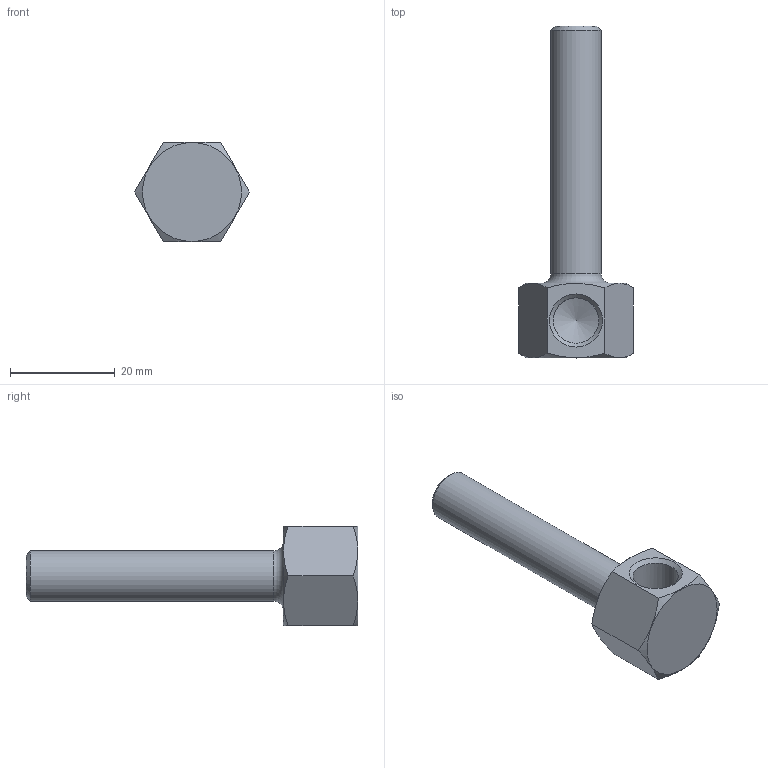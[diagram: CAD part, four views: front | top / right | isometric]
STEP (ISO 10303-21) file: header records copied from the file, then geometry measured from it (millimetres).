
FILE_DESCRIPTION(/* description */ (''),/* implementation_level */ '2;1');
FILE_NAME(/* name */ 'C:/Users/drich/Desktop/18B-2-1_2 v1.step',/* time_stamp */ '2019-12-29T15:20:32-06:00',/* author */ (''),/* organization */ (''),/* preprocessor_version */ 'ST-DEVELOPER v18',/* originating_system */ 'Autodesk Translation Framework v8.12.0.6',/* authorisation */ '');
FILE_SCHEMA (('AUTOMOTIVE_DESIGN { 1 0 10303 214 3 1 1 }'));
Length unit declared in the file: inch
Products named in the file (1): 18B-2-1_2
Bounding box: 22 x 63.5 x 19.05 mm (x, y, z)
Volume: 5607.4 mm3; surface area: 4313.2 mm2
Topology: 1 solids, 1 shells, 19 faces, 48 edges, 31 vertices
Faces by surface type: plane 9, cone 6, cylinder 3, torus 1
Full cylindrical faces by diameter (mm): 6.35 x1, 8.707 x1, 9.621 x1
Entity records: 633 total; most frequent: CARTESIAN_POINT 159, ORIENTED_EDGE 94, DIRECTION 89, EDGE_CURVE 47, AXIS2_PLACEMENT_3D 37, VERTEX_POINT 31, EDGE_LOOP 22, FACE_OUTER_BOUND 19
